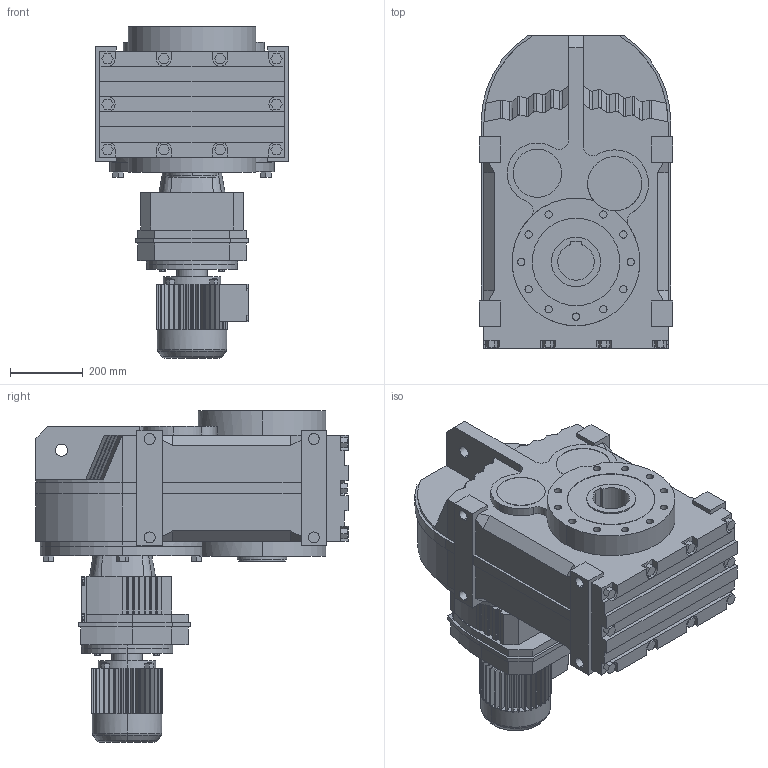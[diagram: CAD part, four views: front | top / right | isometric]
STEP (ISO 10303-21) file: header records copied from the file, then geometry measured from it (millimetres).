
FILE_DESCRIPTION(('Open CASCADE Model'),'2;1');
FILE_NAME('Open CASCADE Shape Model','2021-07-24T10:53:20',('Author'),( 'Open CASCADE'),'Open CASCADE STEP processor 6.3','Open CASCADE 6.3' ,'Unknown');
FILE_SCHEMA(('AUTOMOTIVE_DESIGN_CC2 { 1 2 10303 214 -1 1 5 4 }'));
Length unit declared in the file: millimetre
Products named in the file (5): 1_FA127R87DT90; FA27‵157_127.step; 萇儂_250-DT90-257-342-197-154.step; R_127_87.step; す瑩諾陑粣F_127.step
Assembly tree (4 placements, depth 2):
  1_FA127R87DT90
    FA27‵157_127.step
    萇儂_250-DT90-257-342-197-154.step
    R_127_87.step
    す瑩諾陑粣F_127.step
Bounding box: 530 x 856 x 910 mm (x, y, z)
Volume: 149666071.1 mm3; surface area: 3566559.5 mm2
Topology: 4 solids, 4 shells, 1016 faces, 2691 edges, 1762 vertices
Faces by surface type: plane 756, cylinder 230, bspline 16, cone 10, torus 4
Entity records: 67843 total; most frequent: CARTESIAN_POINT 15684, DIRECTION 9220, LINE 5489, VECTOR 5489, ORIENTED_EDGE 5382, PCURVE 5382, DEFINITIONAL_REPRESENTATION 5382, EDGE_CURVE 2691
